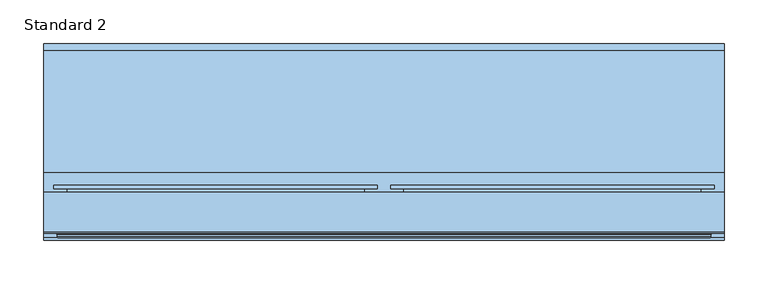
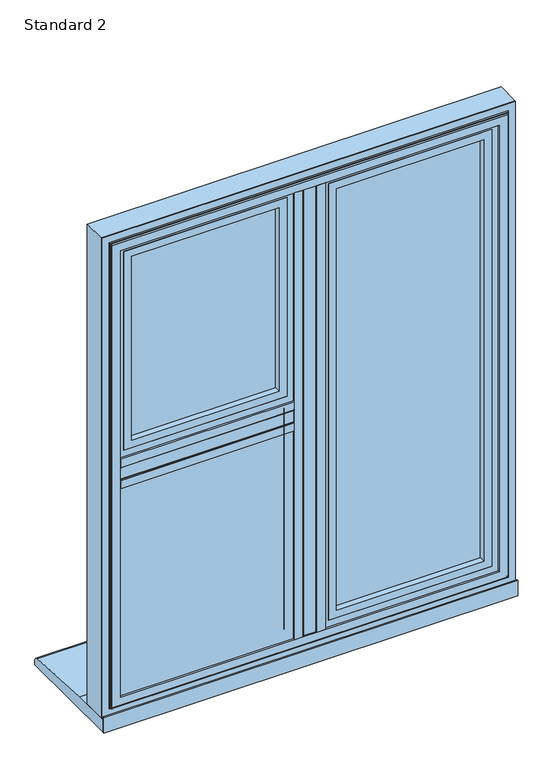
"""IFC4 building model written with IfcOpenShell, lengths in millimetres: window geometry, SMARTS_AlithermHeritage : Standard 2."""

from ifc_helpers import new_model, si_unit, point, frame, frame_2d, origin, place, context, project, spatial, polyline, circle_curve, ellipse_curve, trimmed, segment, composite_curve, outline, extrude, faceted_brep, source, transform, mapped, element, save
from ifc_brep_helpers import plane_surface, cylinder_surface, revolved_surface, advanced_brep


def standard_2_c7c9eed1(model_context):
    return source(origin(), model_context, "Body", "SolidModel", [
        extrude(outline(polyline([(-13.6941456, 95.2798432), (13.6941456, 95.2798432), (13.6941456, 47.279476), (-13.6941456, 47.279476), (-13.6941456, 95.2798432)])), frame((0.0, 0.0, 652.6941456), z_axis=(0.0, 0.0, 1.0), x_axis=(1.0, 0.0, 0.0)), (0.0, 0.0, 1.0), 919.6117089),
        extrude(outline(composite_curve([segment(polyline([(-29.0, 47.279476), (29.0, 47.279476), (29.0, 43.2798432), (13.0, 43.2798432)]), True, "CONTINUOUS"), segment(trimmed(circle_curve(frame_2d((13.0, 44.2798432)), 1.0), [point((13.0, 43.2798432))], [point((12.0, 44.2798432))], False, "CARTESIAN"), True, "CONTINUOUS"), segment(polyline([(12.0, 44.2798432), (12.0, 45.7798432), (-12.0, 45.7798432), (-12.0, 44.2798432)]), True, "CONTINUOUS"), segment(trimmed(circle_curve(frame_2d((-13.0, 44.2798432)), 1.0), [point((-12.0, 44.2798432))], [point((-13.0, 43.2798432))], False, "CARTESIAN"), True, "CONTINUOUS"), segment(polyline([(-13.0, 43.2798432), (-29.0, 43.2798432), (-29.0, 47.279476)]), True, "CONTINUOUS")], self_intersect=False)), frame((0.0, 0.0, 668.0), z_axis=(0.0, 0.0, 1.0), x_axis=(1.0, 0.0, 0.0)), (0.0, 0.0, 1.0), 889.0),
        extrude(outline(polyline([(-13.6941456, 95.2798432), (-13.6941456, 47.279476), (-372.3058544, 47.279476), (-372.3058544, 95.2798432), (-13.6941456, 95.2798432)])), frame((0.0, 0.0, 1098.8058544), z_axis=(0.0, 0.0, 1.0), x_axis=(1.0, 0.0, 0.0)), (0.0, 0.0, 1.0), 27.3882911),
        extrude(outline(composite_curve([segment(polyline([(47.279476, 1083.5), (43.2798432, 1083.5), (43.2798432, 1099.5)]), True, "CONTINUOUS"), segment(trimmed(circle_curve(frame_2d((44.2798432, 1099.5)), 1.0), [point((43.2798432, 1099.5))], [point((44.2798432, 1100.5))], False, "CARTESIAN"), True, "CONTINUOUS"), segment(polyline([(44.2798432, 1100.5), (45.7798432, 1100.5), (45.7798432, 1124.5), (44.2798432, 1124.5)]), True, "CONTINUOUS"), segment(trimmed(circle_curve(frame_2d((44.2798432, 1125.5)), 1.0), [point((44.2798432, 1124.5))], [point((43.2798432, 1125.5))], False, "CARTESIAN"), True, "CONTINUOUS"), segment(polyline([(43.2798432, 1125.5), (43.2798432, 1141.5), (47.279476, 1141.5), (47.279476, 1083.5)]), True, "CONTINUOUS")], self_intersect=False)), frame((-357.0, 0.0, 0.0), z_axis=(1.0, 0.0, 0.0), x_axis=(0.0, 1.0, 0.0)), (0.0, 0.0, 1.0), 328.0),
        extrude(outline(polyline([(-367.0, 75.2798432), (-19.0, 75.2798432), (-19.0, 71.2798432), (-367.0, 71.2798432), (-367.0, 75.2798432)])), frame((0.0, 0.0, 658.0), z_axis=(0.0, 0.0, 1.0), x_axis=(1.0, 0.0, 0.0)), (0.0, 0.0, 1.0), 435.5),
        extrude(outline(polyline([(-367.0, 55.2798432), (-19.0, 55.2798432), (-19.0, 51.2798432), (-367.0, 51.2798432), (-367.0, 55.2798432)])), frame((0.0, 0.0, 658.0), z_axis=(0.0, 0.0, 1.0), x_axis=(1.0, 0.0, 0.0)), (0.0, 0.0, 1.0), 435.5),
        extrude(outline(polyline([(1093.5, -367.0), (658.0, -367.0), (658.0, -19.0), (1093.5, -19.0), (1093.5, -367.0)]), holes=[polyline([(1083.5, -29.0), (668.0, -29.0), (668.0, -357.0), (1083.5, -357.0), (1083.5, -29.0)])]), frame((0.0, 55.2798432, 0.0), z_axis=(0.0, 1.0, 0.0), x_axis=(0.0, 0.0, 1.0)), (0.0, 0.0, 1.0), 16.0),
        faceted_brep([(-19.1851151, 95.2798432, 1093.3148849), (-29.0, 78.2798098, 1083.5), (-357.0, 78.2798098, 1083.5), (-366.8148849, 95.2798432, 1093.3148849), (-13.6297324, 78.2798098, 1098.8702676), (-13.6297324, 95.2798432, 1098.8702676), (-372.3702676, 95.2798432, 1098.8702676), (-372.3702676, 78.2798098, 1098.8702676), (-372.3702676, 78.2798098, 652.6297324), (-372.3702676, 95.2798432, 652.6297324), (-13.6297324, 95.2798432, 652.6297324), (-13.6297324, 78.2798098, 652.6297324), (-366.8148849, 95.2798432, 658.1851151), (-19.1851151, 95.2798432, 658.1851151), (-29.0, 78.2798098, 668.0), (-357.0, 78.2798098, 668.0)], [[[0, 1, 2, 3]], [[4, 5, 6, 7]], [[8, 9, 10, 11]], [[5, 10, 9, 6], [3, 12, 13, 0]], [[7, 8, 11, 4], [1, 14, 15, 2]], [[3, 2, 15, 12]], [[7, 6, 9, 8]], [[12, 15, 14, 13]], [[13, 14, 1, 0]], [[11, 10, 5, 4]]]),
        extrude(outline(polyline([(-343.5, 89.2798432), (-42.5, 89.2798432), (-42.5, 85.2798432), (-343.5, 85.2798432), (-343.5, 89.2798432)])), frame((0.0, 0.0, 1155.0), z_axis=(0.0, 0.0, 1.0), x_axis=(1.0, 0.0, 0.0)), (0.0, 0.0, 1.0), 388.5),
        extrude(outline(polyline([(-343.5, 69.2798432), (-42.5, 69.2798432), (-42.5, 65.2798432), (-343.5, 65.2798432), (-343.5, 69.2798432)])), frame((0.0, 0.0, 1155.0), z_axis=(0.0, 0.0, 1.0), x_axis=(1.0, 0.0, 0.0)), (0.0, 0.0, 1.0), 388.5),
        extrude(outline(polyline([(1543.5, -343.5), (1155.0, -343.5), (1155.0, -42.5), (1543.5, -42.5), (1543.5, -343.5)]), holes=[polyline([(1533.5, -52.5), (1165.0, -52.5), (1165.0, -333.5), (1533.5, -333.5), (1533.5, -52.5)])]), frame((0.0, 69.2798432, 0.0), z_axis=(0.0, 1.0, 0.0), x_axis=(0.0, 0.0, 1.0)), (0.0, 0.0, 1.0), 16.0),
        extrude(outline(polyline([(1547.0052956, -347.0052956), (1151.4947044, -347.0052956), (1151.4947044, -38.9947044), (1547.0052956, -38.9947044), (1547.0052956, -347.0052956)]), holes=[polyline([(1532.0, -54.0), (1166.5, -54.0), (1166.5, -332.0), (1532.0, -332.0), (1532.0, -54.0)])]), frame((0.0, 51.2798432, 0.0), z_axis=(0.0, 1.0, 0.0), x_axis=(0.0, 0.0, 1.0)), (0.0, 0.0, 1.0), 11.3),
        extrude(outline(polyline([(1135.8548042, -362.6451958), (1135.8548042, -23.3548042), (1562.6451958, -23.3548042), (1562.6451958, -362.6451958), (1135.8548042, -362.6451958)]), holes=[polyline([(1547.0, -347.0), (1547.0, -39.0), (1151.5, -39.0), (1151.5, -347.0), (1547.0, -347.0)])]), frame((0.0, 51.2798432, 0.0), z_axis=(0.0, 1.0, 0.0), x_axis=(0.0, 0.0, 1.0)), (0.0, 0.0, 1.0), 41.6),
        advanced_brep(
        [(-332.0, 98.0798432, 1532.0), (-332.0, 92.8798432, 1532.0), (-332.0, 92.8798432, 1166.5), (-332.0, 98.0798432, 1166.5), (-54.0, 92.8798432, 1166.5), (-54.0, 98.0798432, 1166.5), (-54.0, 92.8798432, 1532.0), (-54.0, 98.0798432, 1532.0), (-378.2, 99.2798432, 1578.2), (-378.2, 103.2798432, 1578.2), (-378.2, 103.2798432, 1120.3), (-378.2, 99.2798432, 1120.3), (-7.8, 103.2798432, 1120.3), (-7.8, 99.2798432, 1120.3), (-7.8, 103.2798432, 1578.2), (-7.8, 99.2798432, 1578.2), (-363.1467657, 99.2798432, 1563.1467657), (-22.8532343, 99.2798432, 1563.1467657), (-22.8532343, 99.2798432, 1135.3532343), (-363.1467657, 99.2798432, 1135.3532343), (-349.2, 103.2798432, 1149.3), (-36.8, 103.2798432, 1149.3), (-36.8, 103.2798432, 1549.2), (-349.2, 103.2798432, 1549.2), (-363.1467657, 92.8798432, 1563.1467657), (-363.1467657, 92.8798432, 1135.3532343), (-22.8532343, 92.8798432, 1135.3532343), (-22.8532343, 92.8798432, 1563.1467657), (-347.2, 101.2798432, 1547.2), (-347.2, 100.0798432, 1547.2), (-347.2, 100.0798432, 1151.3), (-347.2, 101.2798432, 1151.3), (-345.2, 98.0798432, 1545.2), (-345.2, 98.0798432, 1153.3), (-38.8, 100.0798432, 1151.3), (-38.8, 101.2798432, 1151.3), (-40.8, 98.0798432, 1153.3), (-38.8, 100.0798432, 1547.2), (-38.8, 101.2798432, 1547.2), (-40.8, 98.0798432, 1545.2)],
        [
            (0, 1),
            (1, 2),
            (2, 3),
            (3, 0),
            (2, 4),
            (4, 5),
            (5, 3),
            (4, 6),
            (6, 7),
            (7, 5),
            (6, 1),
            (0, 7),
            (8, 9),
            (9, 10),
            (10, 11),
            (11, 8),
            (10, 12),
            (12, 13),
            (13, 11),
            (12, 14),
            (14, 15),
            (15, 13),
            (15, 8),
            (16, 17),
            (17, 18),
            (18, 19),
            (19, 16),
            (14, 9),
            (20, 21),
            (21, 22),
            (22, 23),
            (23, 20),
            (24, 16),
            (19, 25),
            (25, 24),
            (18, 26),
            (26, 25),
            (17, 27),
            (27, 26),
            (27, 24),
            (28, 29),
            (29, 30),
            (30, 31),
            (31, 28),
            (29, 32, ellipse_curve(frame((-345.2, 100.0798432, 1545.2), z_axis=(0.7071067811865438, 0.0, 0.7071067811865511), x_axis=(0.707106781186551, 0.0, -0.7071067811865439)), 2.8284271, 2.0)),
            (32, 33),
            (33, 30, ellipse_curve(frame((-345.2, 100.0798432, 1153.3), z_axis=(0.7071067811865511, 0.0, -0.7071067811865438), x_axis=(-0.7071067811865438, 0.0, -0.7071067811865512)), 2.8284271, 2.0)),
            (30, 34),
            (34, 35),
            (35, 31),
            (33, 36),
            (36, 34, ellipse_curve(frame((-40.8, 100.0798432, 1153.3), z_axis=(0.7071067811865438, 0.0, 0.7071067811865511), x_axis=(0.7071067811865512, 0.0, -0.7071067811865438)), 2.8284271, 2.0)),
            (34, 37),
            (37, 38),
            (38, 35),
            (36, 39),
            (39, 37, ellipse_curve(frame((-40.8, 100.0798432, 1545.2), z_axis=(-0.7071067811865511, 0.0, 0.7071067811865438), x_axis=(0.7071067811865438, 0.0, 0.7071067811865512)), 2.8284271, 2.0)),
            (32, 39),
            (37, 29),
            (28, 38),
            (23, 28, ellipse_curve(frame((-349.2, 101.2798432, 1549.2), z_axis=(-0.7071067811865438, 0.0, -0.7071067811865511), x_axis=(-0.707106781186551, 0.0, 0.7071067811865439)), 2.8284271, 2.0)),
            (31, 20, ellipse_curve(frame((-349.2, 101.2798432, 1149.3), z_axis=(-0.7071067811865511, 0.0, 0.7071067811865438), x_axis=(0.7071067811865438, 0.0, 0.7071067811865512)), 2.8284271, 2.0)),
            (35, 21, ellipse_curve(frame((-36.8, 101.2798432, 1149.3), z_axis=(-0.7071067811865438, 0.0, -0.7071067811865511), x_axis=(-0.7071067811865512, 0.0, 0.7071067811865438)), 2.8284271, 2.0)),
            (38, 22, ellipse_curve(frame((-36.8, 101.2798432, 1549.2), z_axis=(0.7071067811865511, 0.0, -0.7071067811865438), x_axis=(-0.7071067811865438, 0.0, -0.7071067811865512)), 2.8284271, 2.0)),
        ],
        [
            plane_surface(frame((-332.0, 92.8798432, 1532.0), z_axis=(1.0, 0.0, 0.0), x_axis=(0.0, 0.0, -1.0))),
            plane_surface(frame((-332.0, 92.8798432, 1166.5), z_axis=(0.0, 0.0, 1.0), x_axis=(1.0, 0.0, 0.0))),
            plane_surface(frame((-54.0, 92.8798432, 1166.5), z_axis=(-1.0, 0.0, 0.0), x_axis=(0.0, 0.0, 1.0))),
            plane_surface(frame((-54.0, 92.8798432, 1532.0), z_axis=(0.0, 0.0, -1.0), x_axis=(-1.0, 0.0, 0.0))),
            plane_surface(frame((-378.2, 103.2798432, 1578.2), z_axis=(-1.0, 0.0, 0.0), x_axis=(0.0, 0.0, -1.0))),
            plane_surface(frame((-378.2, 103.2798432, 1120.3), z_axis=(0.0, 0.0, -1.0), x_axis=(1.0, 0.0, 0.0))),
            plane_surface(frame((-7.8, 103.2798432, 1120.3), z_axis=(1.0, 0.0, 0.0), x_axis=(0.0, 0.0, 1.0))),
            plane_surface(frame((-7.8, 99.2798432, 1578.2), z_axis=(0.0, -1.0, 0.0), x_axis=(-1.0, 0.0, 0.0))),
            plane_surface(frame((-7.8, 103.2798432, 1578.2), z_axis=(0.0, 0.0, 1.0), x_axis=(-1.0, 0.0, 0.0))),
            plane_surface(frame((-36.8, 103.2798432, 1549.2), z_axis=(0.0, 1.0, 0.0), x_axis=(-1.0, 0.0, 0.0))),
            plane_surface(frame((-363.1467657, 99.2798432, 1563.1467657), z_axis=(-1.0, 0.0, 0.0), x_axis=(0.0, 0.0, -1.0))),
            plane_surface(frame((-363.1467657, 99.2798432, 1135.3532343), z_axis=(0.0, 0.0, -1.0), x_axis=(1.0, 0.0, 0.0))),
            plane_surface(frame((-22.8532343, 99.2798432, 1135.3532343), z_axis=(1.0, 0.0, 0.0), x_axis=(0.0, 0.0, 1.0))),
            plane_surface(frame((-22.8532343, 92.8798432, 1563.1467657), z_axis=(0.0, -1.0, 0.0), x_axis=(-1.0, 0.0, 0.0))),
            plane_surface(frame((-22.8532343, 99.2798432, 1563.1467657), z_axis=(0.0, 0.0, 1.0), x_axis=(-1.0, 0.0, 0.0))),
            plane_surface(frame((-347.2, 100.0798432, 1547.2), z_axis=(1.0, 0.0, 0.0), x_axis=(0.0, 0.0, -1.0))),
            revolved_surface(polyline([(-347.2, 100.0798432, 1151.3), (-347.2, 100.0798432, 1547.2)]), (-345.2, 100.0798432, 1557.0), (0.0, 0.0, -1.0)),
            plane_surface(frame((-347.2, 100.0798432, 1151.3), z_axis=(0.0, 0.0, 1.0), x_axis=(1.0, 0.0, 0.0))),
            revolved_surface(polyline([(-38.80000000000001, 100.0798432, 1151.3), (-347.2, 100.0798432, 1151.3)]), (-357.0, 100.0798432, 1153.3), (1.0, 0.0, 0.0)),
            plane_surface(frame((-38.8, 100.0798432, 1151.3), z_axis=(-1.0, 0.0, 0.0), x_axis=(0.0, 0.0, 1.0))),
            revolved_surface(polyline([(-38.8, 100.0798432, 1547.2), (-38.8, 100.0798432, 1151.3)]), (-40.8, 100.0798432, 1141.5), (0.0, 0.0, 1.0)),
            plane_surface(frame((-54.0, 98.0798432, 1532.0), z_axis=(0.0, 1.0, 0.0), x_axis=(-1.0, 0.0, 0.0))),
            plane_surface(frame((-38.8, 100.0798432, 1547.2), z_axis=(0.0, 0.0, -1.0), x_axis=(-1.0, 0.0, 0.0))),
            revolved_surface(polyline([(-347.2, 100.0798432, 1547.2), (-38.8, 100.0798432, 1547.2)]), (-29.0, 100.0798432, 1545.2), (-1.0, 0.0, 0.0)),
            cylinder_surface(frame((-349.2, 101.2798432, 1557.0), z_axis=(0.0, 0.0, 1.0), x_axis=(-1.0, 0.0, 0.0)), 2.0),
            cylinder_surface(frame((-357.0, 101.2798432, 1149.3), z_axis=(-1.0, 0.0, 0.0), x_axis=(0.0, 0.0, -1.0)), 2.0),
            cylinder_surface(frame((-36.8, 101.2798432, 1141.5), z_axis=(0.0, 0.0, -1.0), x_axis=(1.0, 0.0, 0.0)), 2.0),
            cylinder_surface(frame((-29.0, 101.2798432, 1549.2), z_axis=(1.0, 0.0, 0.0), x_axis=(0.0, 0.0, 1.0)), 2.0),
        ],
        [
            (0, [[1, 2, 3, 4]]),
            (1, [[-3, 5, 6, 7]]),
            (2, [[-6, 8, 9, 10]]),
            (3, [[-9, 11, -1, 12]]),
            (4, [[13, 14, 15, 16]]),
            (5, [[-15, 17, 18, 19]]),
            (6, [[-18, 20, 21, 22]]),
            (7, [[-19, -22, 23, -16], [24, 25, 26, 27]]),
            (8, [[-21, 28, -13, -23]]),
            (9, [[-28, -20, -17, -14], [29, 30, 31, 32]]),
            (10, [[33, -27, 34, 35]]),
            (11, [[-34, -26, 36, 37]]),
            (12, [[-36, -25, 38, 39]]),
            (13, [[-37, -39, 40, -35], [-11, -8, -5, -2]]),
            (14, [[-38, -24, -33, -40]]),
            (15, [[41, 42, 43, 44]]),
            (16, [[45, 46, 47, -42]]),
            (17, [[-43, 48, 49, 50]]),
            (18, [[-47, 51, 52, -48]]),
            (19, [[-49, 53, 54, 55]]),
            (20, [[-52, 56, 57, -53]]),
            (21, [[58, -56, -51, -46], [-7, -10, -12, -4]]),
            (22, [[-54, 59, -41, 60]]),
            (23, [[-57, -58, -45, -59]]),
            (24, [[61, -44, 62, -32]]),
            (25, [[-62, -50, 63, -29]]),
            (26, [[-63, -55, 64, -30]]),
            (27, [[-64, -60, -61, -31]]),
        ],
    ),
        extrude(outline(polyline([(1590.0, 390.0), (1590.0, -390.0), (635.0, -390.0), (635.0, 390.0), (1590.0, 390.0)]), holes=[polyline([(652.7000182, 372.2999818), (652.7000182, -372.2999818), (1572.2999818, -372.2999818), (1572.2999818, 372.2999818), (652.7000182, 372.2999818)])]), frame((0.0, 50.279857, 0.0), z_axis=(0.0, 1.0, 0.0), x_axis=(0.0, 0.0, 1.0)), (0.0, 0.0, 1.0), 44.9999962),
        advanced_brep(
        [(357.0, 43.2798432, 1557.0), (357.0, 47.2798432, 1557.0), (357.0, 47.2798432, 668.0), (357.0, 43.2798432, 668.0), (390.0, 50.279857, 1590.0), (390.0, 48.279857, 1590.0), (390.0, 48.279857, 635.0), (390.0, 50.279857, 635.0), (372.4999818, 43.2798432, 1572.4999818), (-372.4999818, 43.2798432, 1572.4999818), (-372.4999818, 43.2798432, 652.5000182), (372.4999818, 43.2798432, 652.5000182), (-357.0, 43.2798432, 668.0), (-357.0, 43.2798432, 1557.0), (-390.0, 50.279857, 1590.0), (-390.0, 48.279857, 1590.0), (-390.0, 50.279857, 635.0), (372.2999818, 50.279857, 1572.2999818), (-372.2999818, 50.279857, 1572.2999818), (-372.2999818, 50.279857, 652.7000182), (372.2999818, 50.279857, 652.7000182), (-357.0, 47.2798432, 1557.0), (-357.0, 47.2798432, 668.0), (-390.0, 48.279857, 635.0), (-372.2999818, 47.2798432, 1572.2999818), (372.2999818, 47.2798432, 1572.2999818), (372.2999818, 47.2798432, 652.7000182), (374.4999818, 46.779857, 650.5000182), (374.4999818, 45.2798432, 650.5000182), (-374.4999818, 45.2798432, 650.5000182), (-374.4999818, 46.779857, 650.5000182), (374.4999818, 46.779857, 1574.4999818), (374.4999818, 45.2798432, 1574.4999818), (-372.2999818, 47.2798432, 652.7000182), (-374.4999818, 45.2798432, 1574.4999818), (-374.4999818, 46.779857, 1574.4999818), (375.9999818, 48.279857, 1575.9999818), (375.9999818, 48.279857, 649.0000182), (-375.9999818, 48.279857, 649.0000182), (-375.9999818, 48.279857, 1575.9999818)],
        [
            (0, 1),
            (1, 2),
            (2, 3),
            (3, 0),
            (4, 5),
            (5, 6),
            (6, 7),
            (7, 4),
            (8, 9),
            (9, 10),
            (10, 11),
            (11, 8),
            (3, 12),
            (12, 13),
            (13, 0),
            (14, 15),
            (15, 5),
            (4, 14),
            (7, 16),
            (16, 14),
            (17, 18),
            (18, 19),
            (19, 20),
            (20, 17),
            (13, 21),
            (21, 1),
            (2, 22),
            (22, 12),
            (22, 21),
            (6, 23),
            (23, 16),
            (23, 15),
            (24, 18),
            (17, 25),
            (25, 24),
            (20, 26),
            (26, 25),
            (27, 28),
            (28, 29),
            (29, 30),
            (30, 27),
            (31, 32),
            (32, 28),
            (27, 31),
            (19, 33),
            (33, 26),
            (24, 33),
            (29, 34),
            (34, 35),
            (35, 30),
            (34, 32),
            (31, 35),
            (36, 31, ellipse_curve(frame((375.9999818, 46.779857, 1575.9999818), z_axis=(-0.7071067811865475, 0.0, 0.7071067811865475), x_axis=(-0.7071067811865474, 0.0, -0.7071067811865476)), 2.1213203, 1.5)),
            (27, 37, ellipse_curve(frame((375.9999818, 46.779857, 649.0000182), z_axis=(-0.7071067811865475, 0.0, -0.7071067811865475), x_axis=(0.7071067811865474, 0.0, -0.7071067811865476)), 2.1213203, 1.5)),
            (37, 36),
            (30, 38, ellipse_curve(frame((-375.9999818, 46.779857, 649.0000182), z_axis=(-0.7071067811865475, 0.0, 0.7071067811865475), x_axis=(-0.7071067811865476, 0.0, -0.7071067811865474)), 2.1213203, 1.5)),
            (38, 37),
            (35, 39, ellipse_curve(frame((-375.9999818, 46.779857, 1575.9999818), z_axis=(0.7071067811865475, 0.0, 0.7071067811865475), x_axis=(-0.7071067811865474, 0.0, 0.7071067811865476)), 2.1213203, 1.5)),
            (39, 38),
            (36, 39),
            (32, 8, ellipse_curve(frame((372.4999818, 45.2798432, 1572.4999818), z_axis=(0.7071067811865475, 0.0, -0.7071067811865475), x_axis=(0.7071067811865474, 0.0, 0.7071067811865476)), 2.8284271, 2.0)),
            (11, 28, ellipse_curve(frame((372.4999818, 45.2798432, 652.5000182), z_axis=(0.7071067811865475, 0.0, 0.7071067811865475), x_axis=(-0.7071067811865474, 0.0, 0.7071067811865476)), 2.8284271, 2.0)),
            (10, 29, ellipse_curve(frame((-372.4999818, 45.2798432, 652.5000182), z_axis=(0.7071067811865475, 0.0, -0.7071067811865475), x_axis=(0.7071067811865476, 0.0, 0.7071067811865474)), 2.8284271, 2.0)),
            (9, 34, ellipse_curve(frame((-372.4999818, 45.2798432, 1572.4999818), z_axis=(-0.7071067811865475, 0.0, -0.7071067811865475), x_axis=(0.7071067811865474, 0.0, -0.7071067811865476)), 2.8284271, 2.0)),
        ],
        [
            plane_surface(frame((357.0, 47.2798432, 1557.0), z_axis=(-1.0, 0.0, 0.0), x_axis=(0.0, 0.0, -1.0))),
            plane_surface(frame((390.0, 48.279857, 1590.0), z_axis=(1.0, 0.0, 0.0), x_axis=(0.0, 0.0, -1.0))),
            plane_surface(frame((-357.0, 43.2798432, 1557.0), z_axis=(0.0, -1.0, 0.0), x_axis=(1.0, 0.0, 0.0))),
            plane_surface(frame((-390.0, 48.279857, 1590.0), z_axis=(0.0, 0.0, 1.0), x_axis=(1.0, 0.0, 0.0))),
            plane_surface(frame((-390.0, 50.279857, 1590.0), z_axis=(0.0, 1.0, 0.0), x_axis=(1.0, 0.0, 0.0))),
            plane_surface(frame((-357.0, 47.2798432, 1557.0), z_axis=(0.0, 0.0, -1.0), x_axis=(1.0, 0.0, 0.0))),
            plane_surface(frame((357.0, 47.2798432, 668.0), z_axis=(0.0, 0.0, 1.0), x_axis=(-1.0, 0.0, 0.0))),
            plane_surface(frame((-357.0, 47.2798432, 668.0), z_axis=(1.0, 0.0, 0.0), x_axis=(0.0, 0.0, 1.0))),
            plane_surface(frame((390.0, 48.279857, 635.0), z_axis=(0.0, 0.0, -1.0), x_axis=(-1.0, 0.0, 0.0))),
            plane_surface(frame((-390.0, 48.279857, 635.0), z_axis=(-1.0, 0.0, 0.0), x_axis=(0.0, 0.0, 1.0))),
            plane_surface(frame((-372.2999818, 50.279857, 1572.2999818), z_axis=(0.0, 0.0, -1.0), x_axis=(1.0, 0.0, 0.0))),
            plane_surface(frame((372.2999818, 50.279857, 1572.2999818), z_axis=(-1.0, 0.0, 0.0), x_axis=(0.0, 0.0, -1.0))),
            plane_surface(frame((374.4999818, 45.2798432, 650.5000182), z_axis=(0.0, 0.0, -1.0), x_axis=(-1.0, 0.0, 0.0))),
            plane_surface(frame((374.4999818, 45.2798432, 1574.4999818), z_axis=(1.0, 0.0, 0.0), x_axis=(0.0, 0.0, -1.0))),
            plane_surface(frame((372.2999818, 50.279857, 652.7000182), z_axis=(0.0, 0.0, 1.0), x_axis=(-1.0, 0.0, 0.0))),
            plane_surface(frame((-372.2999818, 50.279857, 652.7000182), z_axis=(1.0, 0.0, 0.0), x_axis=(0.0, 0.0, 1.0))),
            plane_surface(frame((-374.4999818, 45.2798432, 650.5000182), z_axis=(-1.0, 0.0, 0.0), x_axis=(0.0, 0.0, 1.0))),
            plane_surface(frame((-372.2999818, 47.2798432, 1572.2999818), z_axis=(0.0, 1.0, 0.0), x_axis=(1.0, 0.0, 0.0))),
            plane_surface(frame((-374.4999818, 45.2798432, 1574.4999818), z_axis=(0.0, 0.0, 1.0), x_axis=(1.0, 0.0, 0.0))),
            revolved_surface(polyline([(374.4999818, 46.779857, 647.5000182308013), (374.4999818, 46.779857, 1577.4999817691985)]), (375.9999818, 46.779857, 1590.0), (0.0, 0.0, -1.0)),
            revolved_surface(polyline([(-377.4999817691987, 46.779857, 650.5000182), (377.49998176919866, 46.779857, 650.5000182)]), (390.0, 46.779857, 649.0000182), (-1.0, 0.0, 0.0)),
            revolved_surface(polyline([(-374.4999818, 46.779857, 1577.4999817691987), (-374.4999818, 46.779857, 647.5000182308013)]), (-375.9999818, 46.779857, 635.0), (0.0, 0.0, 1.0)),
            revolved_surface(polyline([(377.4999817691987, 46.779857, 1574.4999818), (-377.49998176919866, 46.779857, 1574.4999818)]), (-390.0, 46.779857, 1575.9999818), (1.0, 0.0, 0.0)),
            plane_surface(frame((-375.9999818, 48.279857, 1575.9999818), z_axis=(0.0, -1.0, 0.0), x_axis=(1.0, 0.0, 0.0))),
            cylinder_surface(frame((372.4999818, 45.2798432, 1590.0), z_axis=(0.0, 0.0, 1.0), x_axis=(-1.0, 0.0, 0.0)), 2.0),
            cylinder_surface(frame((390.0, 45.2798432, 652.5000182), z_axis=(1.0, 0.0, 0.0), x_axis=(0.0, 0.0, 1.0)), 2.0),
            cylinder_surface(frame((-372.4999818, 45.2798432, 635.0), z_axis=(0.0, 0.0, -1.0), x_axis=(1.0, 0.0, 0.0)), 2.0),
            cylinder_surface(frame((-390.0, 45.2798432, 1572.4999818), z_axis=(-1.0, 0.0, 0.0), x_axis=(0.0, 0.0, -1.0)), 2.0),
        ],
        [
            (0, [[1, 2, 3, 4]]),
            (1, [[5, 6, 7, 8]]),
            (2, [[9, 10, 11, 12], [13, 14, 15, -4]]),
            (3, [[16, 17, -5, 18]]),
            (4, [[19, 20, -18, -8], [21, 22, 23, 24]]),
            (5, [[25, 26, -1, -15]]),
            (6, [[-3, 27, 28, -13]]),
            (7, [[-28, 29, -25, -14]]),
            (8, [[-7, 30, 31, -19]]),
            (9, [[-31, 32, -16, -20]]),
            (10, [[33, -21, 34, 35]]),
            (11, [[-34, -24, 36, 37]]),
            (12, [[38, 39, 40, 41]]),
            (13, [[42, 43, -38, 44]]),
            (14, [[-36, -23, 45, 46]]),
            (15, [[-45, -22, -33, 47]]),
            (16, [[-40, 48, 49, 50]]),
            (17, [[-46, -47, -35, -37], [-26, -29, -27, -2]]),
            (18, [[-49, 51, -42, 52]]),
            (19, [[53, -44, 54, 55]]),
            (20, [[-54, -41, 56, 57]]),
            (21, [[-56, -50, 58, 59]]),
            (22, [[-58, -52, -53, 60]]),
            (23, [[-17, -32, -30, -6], [-57, -59, -60, -55]]),
            (24, [[61, -12, 62, -43]]),
            (25, [[-62, -11, 63, -39]]),
            (26, [[-63, -10, 64, -48]]),
            (27, [[-64, -9, -61, -51]]),
        ],
    ),
        extrude(outline(polyline([(42.5, 89.2798432), (343.5, 89.2798432), (343.5, 85.2798432), (42.5, 85.2798432), (42.5, 89.2798432)])), frame((0.0, 0.0, 681.5), z_axis=(0.0, 0.0, 1.0), x_axis=(1.0, 0.0, 0.0)), (0.0, 0.0, 1.0), 862.0),
        extrude(outline(polyline([(42.5, 69.2798432), (343.5, 69.2798432), (343.5, 65.2798432), (42.5, 65.2798432), (42.5, 69.2798432)])), frame((0.0, 0.0, 681.5), z_axis=(0.0, 0.0, 1.0), x_axis=(1.0, 0.0, 0.0)), (0.0, 0.0, 1.0), 862.0),
        extrude(outline(polyline([(1543.5, 42.5), (681.5, 42.5), (681.5, 343.5), (1543.5, 343.5), (1543.5, 42.5)]), holes=[polyline([(1533.5, 333.5), (691.5, 333.5), (691.5, 52.5), (1533.5, 52.5), (1533.5, 333.5)])]), frame((0.0, 69.2798432, 0.0), z_axis=(0.0, 1.0, 0.0), x_axis=(0.0, 0.0, 1.0)), (0.0, 0.0, 1.0), 16.0),
        extrude(outline(polyline([(1547.0052956, 38.9947044), (677.9947044, 38.9947044), (677.9947044, 347.0052956), (1547.0052956, 347.0052956), (1547.0052956, 38.9947044)]), holes=[polyline([(1532.0, 332.0), (693.0, 332.0), (693.0, 54.0), (1532.0, 54.0), (1532.0, 332.0)])]), frame((0.0, 51.2798432, 0.0), z_axis=(0.0, 1.0, 0.0), x_axis=(0.0, 0.0, 1.0)), (0.0, 0.0, 1.0), 11.3),
        extrude(outline(polyline([(662.3548042, 23.3548042), (662.3548042, 362.6451958), (1562.6451958, 362.6451958), (1562.6451958, 23.3548042), (662.3548042, 23.3548042)]), holes=[polyline([(1547.0, 39.0), (1547.0, 347.0), (678.0, 347.0), (678.0, 39.0), (1547.0, 39.0)])]), frame((0.0, 51.2798432, 0.0), z_axis=(0.0, 1.0, 0.0), x_axis=(0.0, 0.0, 1.0)), (0.0, 0.0, 1.0), 41.6),
        advanced_brep(
        [(54.0, 98.0798432, 1532.0), (54.0, 92.8798432, 1532.0), (54.0, 92.8798432, 693.0), (54.0, 98.0798432, 693.0), (332.0, 92.8798432, 693.0), (332.0, 98.0798432, 693.0), (332.0, 92.8798432, 1532.0), (332.0, 98.0798432, 1532.0), (7.8, 99.2798432, 1578.2), (7.8, 103.2798432, 1578.2), (7.8, 103.2798432, 646.8), (7.8, 99.2798432, 646.8), (378.2, 103.2798432, 646.8), (378.2, 99.2798432, 646.8), (378.2, 103.2798432, 1578.2), (378.2, 99.2798432, 1578.2), (22.8532343, 99.2798432, 1563.1467657), (363.1467657, 99.2798432, 1563.1467657), (363.1467657, 99.2798432, 661.8532343), (22.8532343, 99.2798432, 661.8532343), (36.8, 103.2798432, 675.8), (349.2, 103.2798432, 675.8), (349.2, 103.2798432, 1549.2), (36.8, 103.2798432, 1549.2), (22.8532343, 92.8798432, 1563.1467657), (22.8532343, 92.8798432, 661.8532343), (363.1467657, 92.8798432, 661.8532343), (363.1467657, 92.8798432, 1563.1467657), (38.8, 101.2798432, 1547.2), (38.8, 100.0798432, 1547.2), (38.8, 100.0798432, 677.8), (38.8, 101.2798432, 677.8), (40.8, 98.0798432, 1545.2), (40.8, 98.0798432, 679.8), (347.2, 100.0798432, 677.8), (347.2, 101.2798432, 677.8), (345.2, 98.0798432, 679.8), (347.2, 100.0798432, 1547.2), (347.2, 101.2798432, 1547.2), (345.2, 98.0798432, 1545.2)],
        [
            (0, 1),
            (1, 2),
            (2, 3),
            (3, 0),
            (2, 4),
            (4, 5),
            (5, 3),
            (4, 6),
            (6, 7),
            (7, 5),
            (6, 1),
            (0, 7),
            (8, 9),
            (9, 10),
            (10, 11),
            (11, 8),
            (10, 12),
            (12, 13),
            (13, 11),
            (12, 14),
            (14, 15),
            (15, 13),
            (15, 8),
            (16, 17),
            (17, 18),
            (18, 19),
            (19, 16),
            (14, 9),
            (20, 21),
            (21, 22),
            (22, 23),
            (23, 20),
            (24, 16),
            (19, 25),
            (25, 24),
            (18, 26),
            (26, 25),
            (17, 27),
            (27, 26),
            (27, 24),
            (28, 29),
            (29, 30),
            (30, 31),
            (31, 28),
            (29, 32, ellipse_curve(frame((40.8, 100.0798432, 1545.2), z_axis=(0.7071067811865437, 0.0, 0.7071067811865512), x_axis=(0.7071067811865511, 0.0, -0.7071067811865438)), 2.8284271, 2.0)),
            (32, 33),
            (33, 30, ellipse_curve(frame((40.8, 100.0798432, 679.8), z_axis=(0.7071067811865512, 0.0, -0.7071067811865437), x_axis=(-0.7071067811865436, 0.0, -0.7071067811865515)), 2.8284271, 2.0)),
            (30, 34),
            (34, 35),
            (35, 31),
            (33, 36),
            (36, 34, ellipse_curve(frame((345.2, 100.0798432, 679.8), z_axis=(0.7071067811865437, 0.0, 0.7071067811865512), x_axis=(0.7071067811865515, 0.0, -0.7071067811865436)), 2.8284271, 2.0)),
            (34, 37),
            (37, 38),
            (38, 35),
            (36, 39),
            (39, 37, ellipse_curve(frame((345.2, 100.0798432, 1545.2), z_axis=(-0.7071067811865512, 0.0, 0.7071067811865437), x_axis=(0.7071067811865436, 0.0, 0.7071067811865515)), 2.8284271, 2.0)),
            (32, 39),
            (37, 29),
            (28, 38),
            (23, 28, ellipse_curve(frame((36.8, 101.2798432, 1549.2), z_axis=(-0.7071067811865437, 0.0, -0.7071067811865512), x_axis=(-0.7071067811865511, 0.0, 0.7071067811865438)), 2.8284271, 2.0)),
            (31, 20, ellipse_curve(frame((36.8, 101.2798432, 675.8), z_axis=(-0.7071067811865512, 0.0, 0.7071067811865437), x_axis=(0.7071067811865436, 0.0, 0.7071067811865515)), 2.8284271, 2.0)),
            (35, 21, ellipse_curve(frame((349.2, 101.2798432, 675.8), z_axis=(-0.7071067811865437, 0.0, -0.7071067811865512), x_axis=(-0.7071067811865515, 0.0, 0.7071067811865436)), 2.8284271, 2.0)),
            (38, 22, ellipse_curve(frame((349.2, 101.2798432, 1549.2), z_axis=(0.7071067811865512, 0.0, -0.7071067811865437), x_axis=(-0.7071067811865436, 0.0, -0.7071067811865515)), 2.8284271, 2.0)),
        ],
        [
            plane_surface(frame((54.0, 92.8798432, 1532.0), z_axis=(1.0, 0.0, 0.0), x_axis=(0.0, 0.0, -1.0))),
            plane_surface(frame((54.0, 92.8798432, 693.0), z_axis=(0.0, 0.0, 1.0), x_axis=(1.0, 0.0, 0.0))),
            plane_surface(frame((332.0, 92.8798432, 693.0), z_axis=(-1.0, 0.0, 0.0), x_axis=(0.0, 0.0, 1.0))),
            plane_surface(frame((332.0, 92.8798432, 1532.0), z_axis=(0.0, 0.0, -1.0), x_axis=(-1.0, 0.0, 0.0))),
            plane_surface(frame((7.8, 103.2798432, 1578.2), z_axis=(-1.0, 0.0, 0.0), x_axis=(0.0, 0.0, -1.0))),
            plane_surface(frame((7.8, 103.2798432, 646.8), z_axis=(0.0, 0.0, -1.0), x_axis=(1.0, 0.0, 0.0))),
            plane_surface(frame((378.2, 103.2798432, 646.8), z_axis=(1.0, 0.0, 0.0), x_axis=(0.0, 0.0, 1.0))),
            plane_surface(frame((378.2, 99.2798432, 1578.2), z_axis=(0.0, -1.0, 0.0), x_axis=(-1.0, 0.0, 0.0))),
            plane_surface(frame((378.2, 103.2798432, 1578.2), z_axis=(0.0, 0.0, 1.0), x_axis=(-1.0, 0.0, 0.0))),
            plane_surface(frame((349.2, 103.2798432, 1549.2), z_axis=(0.0, 1.0, 0.0), x_axis=(-1.0, 0.0, 0.0))),
            plane_surface(frame((22.8532343, 99.2798432, 1563.1467657), z_axis=(-1.0, 0.0, 0.0), x_axis=(0.0, 0.0, -1.0))),
            plane_surface(frame((22.8532343, 99.2798432, 661.8532343), z_axis=(0.0, 0.0, -1.0), x_axis=(1.0, 0.0, 0.0))),
            plane_surface(frame((363.1467657, 99.2798432, 661.8532343), z_axis=(1.0, 0.0, 0.0), x_axis=(0.0, 0.0, 1.0))),
            plane_surface(frame((363.1467657, 92.8798432, 1563.1467657), z_axis=(0.0, -1.0, 0.0), x_axis=(-1.0, 0.0, 0.0))),
            plane_surface(frame((363.1467657, 99.2798432, 1563.1467657), z_axis=(0.0, 0.0, 1.0), x_axis=(-1.0, 0.0, 0.0))),
            plane_surface(frame((38.8, 100.0798432, 1547.2), z_axis=(1.0, 0.0, 0.0), x_axis=(0.0, 0.0, -1.0))),
            revolved_surface(polyline([(38.8, 100.0798432, 677.8), (38.8, 100.0798432, 1547.2)]), (40.8, 100.0798432, 1557.0), (0.0, 0.0, -1.0)),
            plane_surface(frame((38.8, 100.0798432, 677.8), z_axis=(0.0, 0.0, 1.0), x_axis=(1.0, 0.0, 0.0))),
            revolved_surface(polyline([(347.2, 100.0798432, 677.8), (38.8, 100.0798432, 677.8)]), (29.0, 100.0798432, 679.8), (1.0, 0.0, 0.0)),
            plane_surface(frame((347.2, 100.0798432, 677.8), z_axis=(-1.0, 0.0, 0.0), x_axis=(0.0, 0.0, 1.0))),
            revolved_surface(polyline([(347.2, 100.0798432, 1547.2), (347.2, 100.0798432, 677.8)]), (345.2, 100.0798432, 668.0), (0.0, 0.0, 1.0)),
            plane_surface(frame((332.0, 98.0798432, 1532.0), z_axis=(0.0, 1.0, 0.0), x_axis=(-1.0, 0.0, 0.0))),
            plane_surface(frame((347.2, 100.0798432, 1547.2), z_axis=(0.0, 0.0, -1.0), x_axis=(-1.0, 0.0, 0.0))),
            revolved_surface(polyline([(38.80000000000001, 100.0798432, 1547.2), (347.2, 100.0798432, 1547.2)]), (357.0, 100.0798432, 1545.2), (-1.0, 0.0, 0.0)),
            cylinder_surface(frame((36.8, 101.2798432, 1557.0), z_axis=(0.0, 0.0, 1.0), x_axis=(-1.0, 0.0, 0.0)), 2.0),
            cylinder_surface(frame((29.0, 101.2798432, 675.8), z_axis=(-1.0, 0.0, 0.0), x_axis=(0.0, 0.0, -1.0)), 2.0),
            cylinder_surface(frame((349.2, 101.2798432, 668.0), z_axis=(0.0, 0.0, -1.0), x_axis=(1.0, 0.0, 0.0)), 2.0),
            cylinder_surface(frame((357.0, 101.2798432, 1549.2), z_axis=(1.0, 0.0, 0.0), x_axis=(0.0, 0.0, 1.0)), 2.0),
        ],
        [
            (0, [[1, 2, 3, 4]]),
            (1, [[-3, 5, 6, 7]]),
            (2, [[-6, 8, 9, 10]]),
            (3, [[-9, 11, -1, 12]]),
            (4, [[13, 14, 15, 16]]),
            (5, [[-15, 17, 18, 19]]),
            (6, [[-18, 20, 21, 22]]),
            (7, [[-19, -22, 23, -16], [24, 25, 26, 27]]),
            (8, [[-21, 28, -13, -23]]),
            (9, [[-28, -20, -17, -14], [29, 30, 31, 32]]),
            (10, [[33, -27, 34, 35]]),
            (11, [[-34, -26, 36, 37]]),
            (12, [[-36, -25, 38, 39]]),
            (13, [[-37, -39, 40, -35], [-11, -8, -5, -2]]),
            (14, [[-38, -24, -33, -40]]),
            (15, [[41, 42, 43, 44]]),
            (16, [[45, 46, 47, -42]]),
            (17, [[-43, 48, 49, 50]]),
            (18, [[-47, 51, 52, -48]]),
            (19, [[-49, 53, 54, 55]]),
            (20, [[-52, 56, 57, -53]]),
            (21, [[58, -56, -51, -46], [-7, -10, -12, -4]]),
            (22, [[-54, 59, -41, 60]]),
            (23, [[-57, -58, -45, -59]]),
            (24, [[61, -44, 62, -32]]),
            (25, [[-62, -50, 63, -29]]),
            (26, [[-63, -55, 64, -30]]),
            (27, [[-64, -60, -61, -31]]),
        ],
    ),
        extrude(outline(polyline([(390.0, 43.2798432), (390.0, 40.7798432), (-390.0, 40.7798432), (-390.0, 43.2798432), (390.0, 43.2798432)])), frame((0.0, 0.0, 610.0), z_axis=(0.0, 0.0, 1.0), x_axis=(1.0, 0.0, 0.0)), (0.0, 0.0, 1.0), 31.0),
        extrude(outline(composite_curve([segment(polyline([(265.7798432, 610.0), (43.2798432, 610.0), (43.2798432, 635.0), (118.7798432, 635.0), (258.4770891, 625.9276664)]), True, "CONTINUOUS"), segment(trimmed(circle_curve(frame_2d((257.7798432, 617.9581088)), 8.0), [point((258.4770891, 625.9276664))], [point((265.7798432, 617.9581088))], False, "CARTESIAN"), True, "CONTINUOUS"), segment(polyline([(265.7798432, 617.9581088), (265.7798432, 610.0)]), True, "CONTINUOUS")], self_intersect=False)), frame((-390.0, 0.0, 0.0), z_axis=(1.0, 0.0, 0.0), x_axis=(0.0, 1.0, 0.0)), (0.0, 0.0, 1.0), 780.0),
    ])


if __name__ == "__main__":
    model = new_model("IFC4")
    model_context = context("Model", 3, world=origin())
    ifc_project = project(units=[si_unit("LENGTHUNIT", "METRE", prefix="MILLI")], contexts=[model_context])
    site = spatial("IfcSite", under=ifc_project)
    building = spatial("IfcBuilding", under=site)
    placement = place(None, origin())
    standard_2_shape = standard_2_c7c9eed1(model_context)
    element("IfcWindow", 1, ObjectType="SMARTS_AlithermHeritage : Standard 2", at=placement, inside=building, context=model_context, shape_type="MappedRepresentation", body=[
        mapped(standard_2_shape, transform((0.0, 0.0, 0.0), x_axis=(1.0, 0.0, 0.0), y_axis=(0.0, 1.0, 0.0), z_axis=(0.0, 0.0, 1.0))),
    ])
    save(model, "model.ifc")
